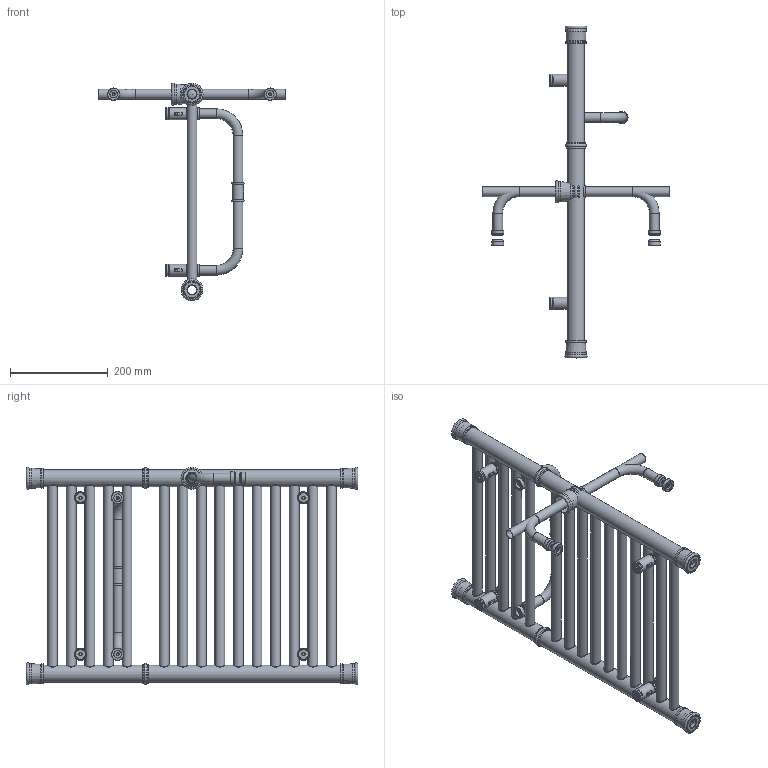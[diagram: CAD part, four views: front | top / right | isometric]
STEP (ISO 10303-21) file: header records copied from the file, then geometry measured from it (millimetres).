
FILE_DESCRIPTION( ( 'Unknown' ), '1' );
FILE_NAME( 'D:/Alplast sp. j/Witryna zespoBu - Projekty/Archiwum/Grzejniki Archiwum/Projekty/DESIGN PROGRAM/RETRO/Zlozenie Retro A2-400.stp', 'Unknown', ( 'Unknown' ), ( 'Unknown' ), 'PSStep 10.1', 'Unknown', ' ' );
FILE_SCHEMA( ( 'AUTOMOTIVE_DESIGN { 1 0 10303 214 1 1 1 1 }' ) );
Length unit declared in the file: millimetre
Products named in the file (45): mocowanie do œciany; suszarka Retro 400; Assem1; katurek z wkrêtem do mocowania do  sciany; Katurek fi 25 v4 ; wkrêt do katurka fi 25 v4; tulejka do mocowania grzejnika v3; mocowanie do grzejnika v3; zaœlepka do mocowania do œciany; detal-v3. par; element do suszarki do mocowania; element do suszarki do mocowania-oa0; tulejka do suszarki ; tulejka do suszarki -oa1; element do suszarki do mocowania ty³; element do suszarki do mocowania ty³-oa2; suszarka 400; kolektor Retro A2; kolektor Retro A2-oa3; Kana³ Prosty Retro 400; Kana³ Prosty Retro 400-oa4; Kana³ Prosty Retro 400-oa5; Kana³ Prosty Retro 400-oa6; Kana³ Prosty Retro 400-oa7; Kana³ Prosty Retro 400-oa8; Kana³ Prosty Retro 400-oa9; Kana³ Prosty Retro 400-oa10; Kana³ Prosty Retro 400-oa11; Kana³ Prosty Retro 400-oa12; Kana³ Prosty Retro 400-oa13; Kana³ Prosty Retro 400-oa14; Kana³ Prosty Retro 400-oa15; Kana³ Prosty Retro 400-oa16; Kana³ Prosty Retro 400-oa17; Kana³ Prosty Retro 400-oa18; Zaslepka fi 35 z gwintem ; Zaslepka fi 35 z gwintem -oa19; Zaslepka fi 35 z gwintem -oa20; Zaslepka fi 35 z gwintem -oa21; pierœcieñ ozdobny 1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
Bounding box: 384 x 678 x 444.97 mm (x, y, z)
Volume: 1649868.4 mm3; surface area: 2395914.8 mm2
Topology: 112 solids, 112 shells, 944 faces, 1896 edges, 1210 vertices
Faces by surface type: cylinder 378, plane 282, torus 189, cone 76, bspline 12, sphere 7
Full cylindrical faces by diameter (mm): 4.917 x24, 5.9 x6, 6 x27, 6.3 x6, 6.4 x6, 15.5 x6, 17.5 x6, 17.6 x41, 18.631 x8, 20 x41, 20.3 x3, 20.5 x60, 20.6 x6, 21.15 x6, 21.9 x18, 22.8 x3, 24.5 x6, 25 x21, 25.25 x6, 25.3 x6, 32 x8, 32.4 x4, 35 x12, 35.3 x4, 35.5 x8, 39 x8, 41.15 x16
Entity records: 16459 total; most frequent: CARTESIAN_POINT 7097, DIRECTION 1344, ORIENTED_EDGE 734, EDGE_LOOP 716, AXIS2_PLACEMENT_3D 668, FACE_OUTER_BOUND 535, EDGE_CURVE 367, VERTEX_POINT 364
